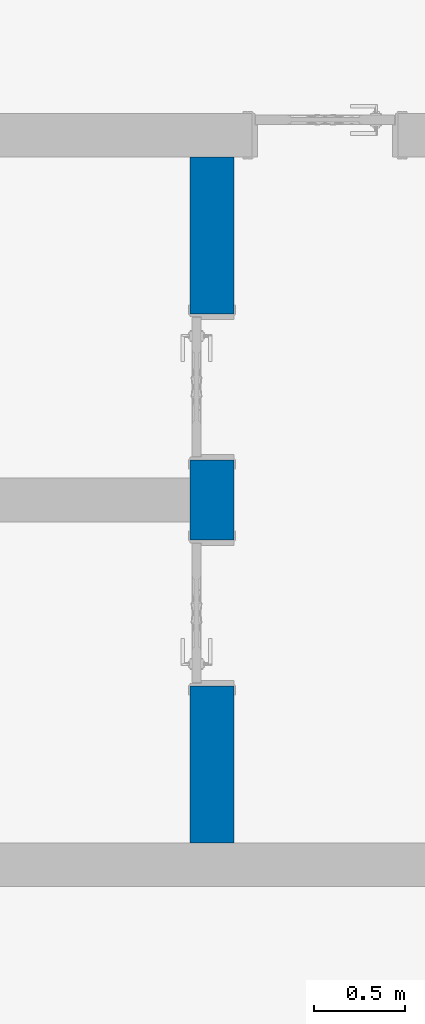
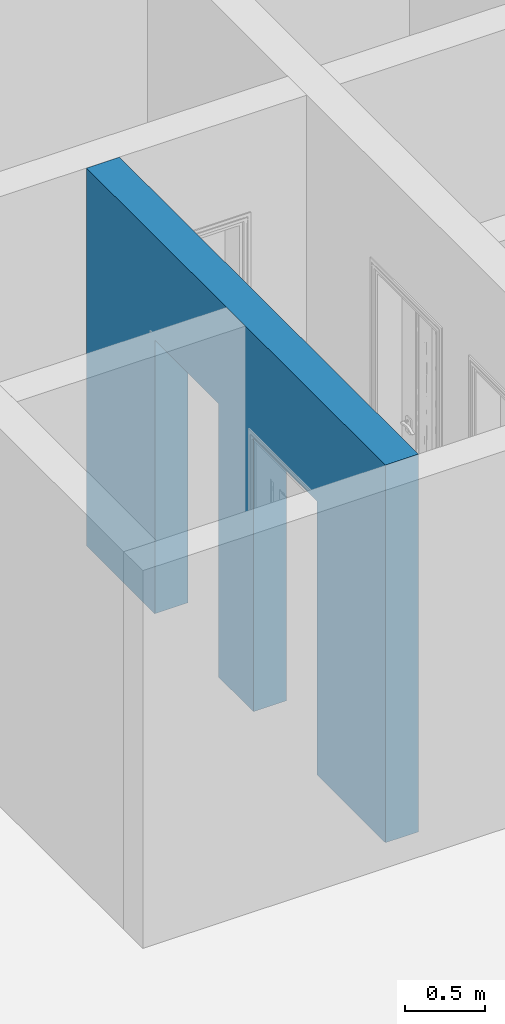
# One storey, part 7 of 16: 1 wall, 2 openings.
"""IFC2X3 building model written with IfcOpenShell, lengths in millimetres."""

from ifc_helpers import new_model, entity, si_unit, converted_unit, derived_unit, direction, frame, frame_2d, origin, place, context, subcontext, project, spatial, polyline, rectangle, extrude, clip, bounded_halfspace, material, layer, layer_set, layer_usage, type_object, element, save


model = new_model("IFC2X3")

# Units and contexts
model_context = context("Model", 3, precision=0.01, world=origin(), true_north=direction((6.12303176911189e-17, 1.0)))
body_context = subcontext(model_context, "Body", "Model", "MODEL_VIEW")
ifc_project = project(units=[si_unit("LENGTHUNIT", "METRE", prefix="MILLI"), si_unit("AREAUNIT", "SQUARE_METRE"), si_unit("VOLUMEUNIT", "CUBIC_METRE"), converted_unit("PLANEANGLEUNIT", "DEGREE", entity("IfcRatioMeasure", 0.0174532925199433), si_unit("PLANEANGLEUNIT", "RADIAN"), dimensions=[0, 0, 0, 0, 0, 0, 0]), si_unit("MASSUNIT", "GRAM", prefix="KILO"), derived_unit("MASSDENSITYUNIT", [(si_unit("MASSUNIT", "GRAM", prefix="KILO"), 1), (si_unit("LENGTHUNIT", "METRE"), -3)]), si_unit("TIMEUNIT", "SECOND"), si_unit("FREQUENCYUNIT", "HERTZ"), si_unit("THERMODYNAMICTEMPERATUREUNIT", "DEGREE_CELSIUS"), derived_unit("THERMALTRANSMITTANCEUNIT", [(si_unit("MASSUNIT", "GRAM", prefix="KILO"), 1), (si_unit("THERMODYNAMICTEMPERATUREUNIT", "KELVIN"), -1), (si_unit("TIMEUNIT", "SECOND"), -3)]), derived_unit("VOLUMETRICFLOWRATEUNIT", [(si_unit("LENGTHUNIT", "METRE"), 3), (si_unit("TIMEUNIT", "SECOND"), -1)]), si_unit("ELECTRICCURRENTUNIT", "AMPERE"), si_unit("ELECTRICVOLTAGEUNIT", "VOLT"), si_unit("POWERUNIT", "WATT"), si_unit("FORCEUNIT", "NEWTON", prefix="KILO"), si_unit("ILLUMINANCEUNIT", "LUX"), si_unit("LUMINOUSFLUXUNIT", "LUMEN"), si_unit("LUMINOUSINTENSITYUNIT", "CANDELA"), derived_unit("USERDEFINED", [(si_unit("MASSUNIT", "GRAM", prefix="KILO"), -1), (si_unit("LENGTHUNIT", "METRE"), -2), (si_unit("TIMEUNIT", "SECOND"), 3), (si_unit("LUMINOUSFLUXUNIT", "LUMEN"), 1)]), derived_unit("LINEARVELOCITYUNIT", [(si_unit("LENGTHUNIT", "METRE"), 1), (si_unit("TIMEUNIT", "SECOND"), -1)]), si_unit("PRESSUREUNIT", "PASCAL"), derived_unit("USERDEFINED", [(si_unit("LENGTHUNIT", "METRE"), -2), (si_unit("MASSUNIT", "GRAM", prefix="KILO"), 1), (si_unit("TIMEUNIT", "SECOND"), -2)])], contexts=[model_context])

# Site, building, storey
site_placement = place(None, origin())
site = spatial("IfcSite", under=ifc_project, at=site_placement, Name="表面", CompositionType="ELEMENT")
building_placement = place(site_placement, origin())
building = spatial("IfcBuilding", under=site, at=building_placement, CompositionType="ELEMENT")
storey_placement = place(building_placement, frame((0.0, 0.0, 3000.0)))
storey = spatial("IfcBuildingStorey", under=building, at=storey_placement, Name="2F", CompositionType="ELEMENT", Elevation=3000.00000000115)

# Wall, openings
ifc_material_1 = material(Name="白色涂料")
ifc_layer_1 = layer(ifc_material_1, 10.0)
ifc_material_2 = material(Name="默认墙")
ifc_layer_2 = layer(ifc_material_2, 220.0)
ifc_layer_3 = layer(ifc_material_1, 10.0)
ifc_layer_set = layer_set([ifc_layer_1, ifc_layer_2, ifc_layer_3], Name="基本墙:粉刷墙240")
ifc_layer_usage = layer_usage(ifc_layer_set, "AXIS2", "NEGATIVE", 120.0)
wall_type = type_object("IfcWallType", Name="基本墙:粉刷墙240", PredefinedType="STANDARD", material=ifc_layer_set)
wall_placement = place(storey_placement, frame((-10130.2499126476, -2196.86842665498, 0.0), z_axis=(0.0, 0.0, 1.0), x_axis=(0.0, 1.0, 0.0)))
wall = element("IfcWallStandardCase", 1, at=wall_placement, inside=storey, type_object=wall_type, material=ifc_layer_usage, Name="基本墙:粉刷墙240", ObjectType="基本墙:粉刷墙240", context=body_context, shape_type="Clipping", body=[
    clip(extrude(rectangle(XDim=3760.0, YDim=240.000000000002, at=frame_2d((1880.0, -1.98951966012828e-13), x_axis=(-1.0, 0.0))), origin(), (0.0, 0.0, 1.0), 2900.0), bounded_halfspace(frame((0.0, -120.0, 2900.0), z_axis=(0.0, 0.0, -1.0), x_axis=(-1.0, 0.0, 0.0)), True, frame((0.0, -120.0, 2900.0)), polyline([(0.0, 0.0), (3760.0, 0.0), (3760.0, 240.0), (2000.0, 240.0), (1760.0, 240.0), (0.0, 240.0), (0.0, 0.0)]))),
])
opening_1_placement = place(wall_placement, frame((2100.0, -120.0, 1.15433635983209e-09)))
element("IfcOpeningElement", 2, at=opening_1_placement, cuts=wall, Name="装饰木门:M0821:1", ObjectType="Opening", context=body_context, shape_type="SweptSolid", body=[
    extrude(rectangle(XDim=2099.99999999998, YDim=800.0, at=frame_2d((1049.99999999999, 400.0), x_axis=(1.0, 0.0))), frame((0.0, 0.0, 0.0), z_axis=(0.0, 1.0, 0.0), x_axis=(0.0, 0.0, 1.0)), (0.0, 0.0, 1.0), 240.0),
])
opening_2_placement = place(wall_placement, frame((860.0, -120.0, 1.15433635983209e-09)))
element("IfcOpeningElement", 3, at=opening_2_placement, cuts=wall, Name="装饰木门:M0821:1", ObjectType="Opening", context=body_context, shape_type="SweptSolid", body=[
    extrude(rectangle(XDim=2099.99999999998, YDim=800.0, at=frame_2d((1049.99999999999, 400.0), x_axis=(1.0, 0.0))), frame((0.0, 0.0, 0.0), z_axis=(0.0, 1.0, 0.0), x_axis=(0.0, 0.0, 1.0)), (0.0, 0.0, 1.0), 240.0),
])

save(model, "model.ifc")
